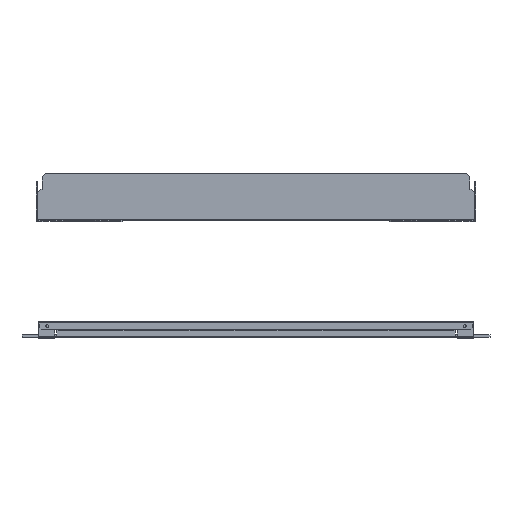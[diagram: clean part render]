
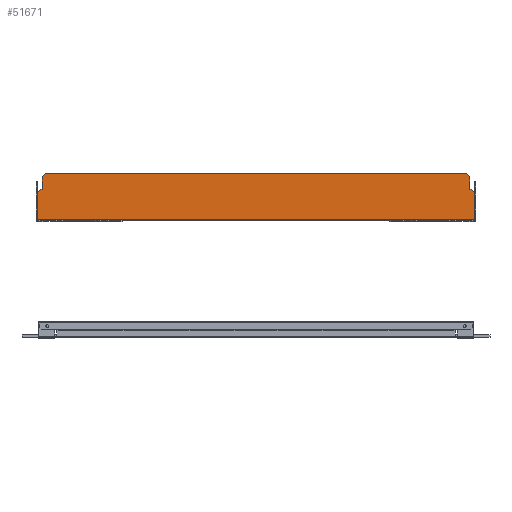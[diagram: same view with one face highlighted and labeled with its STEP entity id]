
A CAD part, front view. The second image highlights one B-rep face of the part: STEP entity #51671.
In plain terms, the highlighted planar face has unit normal (0, -1, 0).
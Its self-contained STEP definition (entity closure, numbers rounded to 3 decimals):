
#49756=CARTESIAN_POINT(' ',(347.5,-1.5,0.6));
#49757=VERTEX_POINT(' ',#49756);
#49771=CARTESIAN_POINT(' ',(347.5,-1.5,0.6));
#49776=DIRECTION(' ',(-1.,0.,0.));
#49781=VECTOR(' ',#49776,1.);
#49786=LINE('',#49771,#49781);
#49791=CARTESIAN_POINT(' ',(-347.5,-1.5,0.6));
#49792=VERTEX_POINT(' ',#49791);
#49796=EDGE_CURVE(' ',#49757,#49792,#49786,.T.);
#49936=CARTESIAN_POINT(' ',(347.5,-1.5,43.5));
#49937=VERTEX_POINT(' ',#49936);
#49951=CARTESIAN_POINT(' ',(347.5,-1.5,43.5));
#49956=DIRECTION(' ',(0.,0.,-1.));
#49961=VECTOR(' ',#49956,1.);
#49966=LINE('',#49951,#49961);
#49971=EDGE_CURVE(' ',#49937,#49757,#49966,.T.);
#50741=CARTESIAN_POINT(' ',(-347.5,-1.5,0.6));
#50746=DIRECTION(' ',(0.,0.,1.));
#50751=VECTOR(' ',#50746,1.);
#50756=LINE('',#50741,#50751);
#50761=CARTESIAN_POINT(' ',(-347.5,-1.5,43.5));
#50762=VERTEX_POINT(' ',#50761);
#50766=EDGE_CURVE(' ',#49792,#50762,#50756,.T.);
#51311=DIRECTION(' ',(0.,-1.,0.));
#51316=CARTESIAN_POINT(' ',(-347.5,-1.5,73.5));
#51321=DIRECTION(' ',(0.,0.,-1.));
#51326=AXIS2_PLACEMENT_3D(' ',#51316,#51311,#51321);
#51331=PLANE('NONE',#51326);
#51336=ORIENTED_EDGE(' ',*,*,#49971,.F.);
#51341=CARTESIAN_POINT(' ',(347.5,-1.5,43.5));
#51346=DIRECTION(' ',(-0.707,0.,0.707));
#51351=VECTOR(' ',#51346,1.);
#51356=LINE('',#51341,#51351);
#51361=CARTESIAN_POINT(' ',(342.5,-1.5,48.5));
#51362=VERTEX_POINT(' ',#51361);
#51366=EDGE_CURVE(' ',#49937,#51362,#51356,.T.);
#51371=ORIENTED_EDGE(' ',*,*,#51366,.T.);
#51376=CARTESIAN_POINT(' ',(340.5,-1.5,48.5));
#51381=DIRECTION(' ',(1.,0.,0.));
#51386=VECTOR(' ',#51381,1.);
#51391=LINE('',#51376,#51386);
#51396=CARTESIAN_POINT(' ',(340.5,-1.5,48.5));
#51397=VERTEX_POINT(' ',#51396);
#51401=EDGE_CURVE(' ',#51397,#51362,#51391,.T.);
#51406=ORIENTED_EDGE(' ',*,*,#51401,.F.);
#51411=CARTESIAN_POINT(' ',(340.5,-1.5,48.5));
#51416=DIRECTION(' ',(0.,0.,1.));
#51421=VECTOR(' ',#51416,1.);
#51426=LINE('',#51411,#51421);
#51431=CARTESIAN_POINT(' ',(340.5,-1.5,68.5));
#51432=VERTEX_POINT(' ',#51431);
#51436=EDGE_CURVE(' ',#51397,#51432,#51426,.T.);
#51441=ORIENTED_EDGE(' ',*,*,#51436,.T.);
#51446=CARTESIAN_POINT(' ',(340.5,-1.5,68.5));
#51451=DIRECTION(' ',(-0.707,0.,0.707));
#51456=VECTOR(' ',#51451,1.);
#51461=LINE('',#51446,#51456);
#51466=CARTESIAN_POINT(' ',(335.5,-1.5,73.5));
#51467=VERTEX_POINT(' ',#51466);
#51471=EDGE_CURVE(' ',#51432,#51467,#51461,.T.);
#51476=ORIENTED_EDGE(' ',*,*,#51471,.T.);
#51481=CARTESIAN_POINT(' ',(335.5,-1.5,73.5));
#51486=DIRECTION(' ',(-1.,0.,0.));
#51491=VECTOR(' ',#51486,1.);
#51496=LINE('',#51481,#51491);
#51501=CARTESIAN_POINT(' ',(-335.5,-1.5,73.5));
#51502=VERTEX_POINT(' ',#51501);
#51506=EDGE_CURVE(' ',#51467,#51502,#51496,.T.);
#51511=ORIENTED_EDGE(' ',*,*,#51506,.T.);
#51516=CARTESIAN_POINT(' ',(-335.5,-1.5,73.5));
#51521=DIRECTION(' ',(-0.707,0.,-0.707));
#51526=VECTOR(' ',#51521,1.);
#51531=LINE('',#51516,#51526);
#51536=CARTESIAN_POINT(' ',(-340.5,-1.5,68.5));
#51537=VERTEX_POINT(' ',#51536);
#51541=EDGE_CURVE(' ',#51502,#51537,#51531,.T.);
#51546=ORIENTED_EDGE(' ',*,*,#51541,.T.);
#51551=CARTESIAN_POINT(' ',(-340.5,-1.5,48.5));
#51556=DIRECTION(' ',(0.,0.,1.));
#51561=VECTOR(' ',#51556,1.);
#51566=LINE('',#51551,#51561);
#51571=CARTESIAN_POINT(' ',(-340.5,-1.5,48.5));
#51572=VERTEX_POINT(' ',#51571);
#51576=EDGE_CURVE(' ',#51572,#51537,#51566,.T.);
#51581=ORIENTED_EDGE(' ',*,*,#51576,.F.);
#51586=CARTESIAN_POINT(' ',(-340.5,-1.5,48.5));
#51591=DIRECTION(' ',(-1.,0.,0.));
#51596=VECTOR(' ',#51591,1.);
#51601=LINE('',#51586,#51596);
#51606=CARTESIAN_POINT(' ',(-342.5,-1.5,48.5));
#51607=VERTEX_POINT(' ',#51606);
#51611=EDGE_CURVE(' ',#51572,#51607,#51601,.T.);
#51616=ORIENTED_EDGE(' ',*,*,#51611,.T.);
#51621=CARTESIAN_POINT(' ',(-342.5,-1.5,48.5));
#51626=DIRECTION(' ',(-0.707,0.,-0.707));
#51631=VECTOR(' ',#51626,1.);
#51636=LINE('',#51621,#51631);
#51641=EDGE_CURVE(' ',#51607,#50762,#51636,.T.);
#51646=ORIENTED_EDGE(' ',*,*,#51641,.T.);
#51651=ORIENTED_EDGE(' ',*,*,#50766,.F.);
#51656=ORIENTED_EDGE(' ',*,*,#49796,.F.);
#51661=EDGE_LOOP(' ',(#51336,#51371,#51406,#51441,#51476,#51511,#51546,#51581,#51616,#51646,#51651,#51656));
#51666=FACE_OUTER_BOUND(' ',#51661,.T.);
#51671=ADVANCED_FACE('NONE',(#51666),#51331,.T.);
